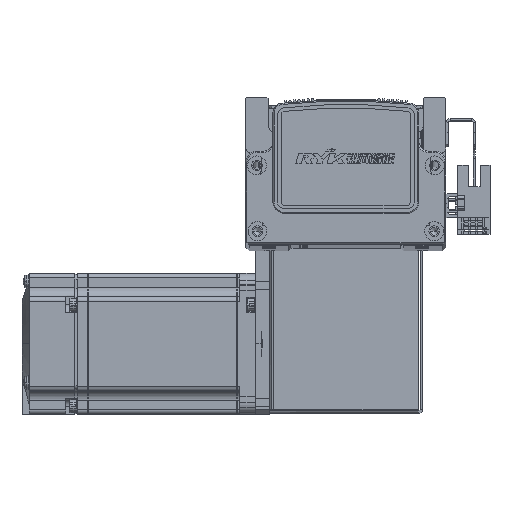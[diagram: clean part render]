
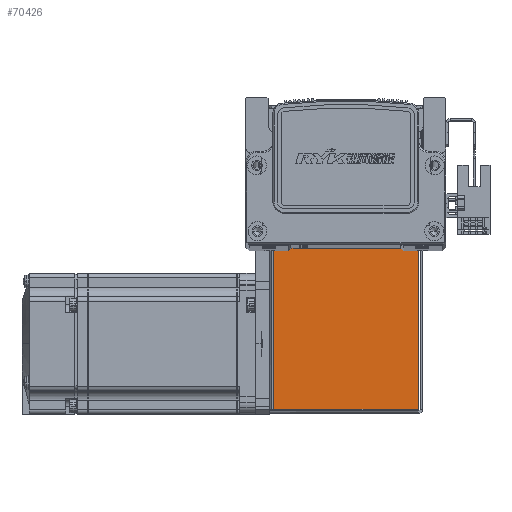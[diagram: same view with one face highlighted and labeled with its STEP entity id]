
A CAD part, top view. The second image highlights one B-rep face of the part: STEP entity #70426.
In plain terms, the highlighted planar face has unit normal (0, 0, 1) as drawn and (0, 0, -1) by its records, which use the part's own axes.
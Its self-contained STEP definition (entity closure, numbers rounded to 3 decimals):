
#959 = CARTESIAN_POINT ( 'NONE',  ( 30.763, 72.5, -35. ) ) ;
#1012 = CARTESIAN_POINT ( 'NONE',  ( -30.793, 0.737, -35. ) ) ;
#1068 = CARTESIAN_POINT ( 'NONE',  ( 30.763, 0.737, -35. ) ) ;
#1118 = CARTESIAN_POINT ( 'NONE',  ( -30.793, 72.5, -35. ) ) ;
#1880 = EDGE_CURVE ( 'NONE', #53325, #53332, #11419, .T. ) ;
#1913 = EDGE_CURVE ( 'NONE', #53336, #53332, #11375, .T. ) ;
#1916 = EDGE_CURVE ( 'NONE', #53404, #53336, #11434, .T. ) ;
#1923 = EDGE_CURVE ( 'NONE', #53325, #53404, #11587, .T. ) ;
#8476 = FACE_OUTER_BOUND ( 'NONE', #39347, .T. ) ;
#10139 = ORIENTED_EDGE ( 'NONE', *, *, #1913, .T. ) ;
#10190 = ORIENTED_EDGE ( 'NONE', *, *, #1923, .T. ) ;
#10198 = ORIENTED_EDGE ( 'NONE', *, *, #1880, .F. ) ;
#10202 = ORIENTED_EDGE ( 'NONE', *, *, #1916, .T. ) ;
#11375 = LINE ( 'NONE', #62095, #11377 ) ;
#11377 = VECTOR ( 'NONE', #62140, 1000. ) ;
#11419 = LINE ( 'NONE', #66316, #11441 ) ;
#11434 = LINE ( 'NONE', #62165, #11436 ) ;
#11436 = VECTOR ( 'NONE', #62037, 1000. ) ;
#11441 = VECTOR ( 'NONE', #66335, 1000. ) ;
#11482 = VECTOR ( 'NONE', #62230, 1000. ) ;
#11587 = LINE ( 'NONE', #62253, #11482 ) ;
#25079 = DIRECTION ( 'NONE',  ( 0., 0., 1. ) ) ;
#25122 = PLANE ( 'NONE',  #63938 ) ;
#25123 = DIRECTION ( 'NONE',  ( 0., -1., 0. ) ) ;
#25126 = CARTESIAN_POINT ( 'NONE',  ( 0., 0., -35. ) ) ;
#39347 = EDGE_LOOP ( 'NONE', ( #10139, #10198, #10190, #10202 ) ) ;
#53325 = VERTEX_POINT ( 'NONE', #1012 ) ;
#53332 = VERTEX_POINT ( 'NONE', #1068 ) ;
#53336 = VERTEX_POINT ( 'NONE', #959 ) ;
#53404 = VERTEX_POINT ( 'NONE', #1118 ) ;
#62037 = DIRECTION ( 'NONE',  ( 1., 0., 0. ) ) ;
#62095 = CARTESIAN_POINT ( 'NONE',  ( 30.763, 72.5, -35. ) ) ;
#62140 = DIRECTION ( 'NONE',  ( 0., -1., 0. ) ) ;
#62165 = CARTESIAN_POINT ( 'NONE',  ( 0., 72.5, -35. ) ) ;
#62230 = DIRECTION ( 'NONE',  ( 0., 1., 0. ) ) ;
#62253 = CARTESIAN_POINT ( 'NONE',  ( -30.793, 0., -35. ) ) ;
#63938 = AXIS2_PLACEMENT_3D ( 'NONE', #25126, #25079, #25123 ) ;
#66316 = CARTESIAN_POINT ( 'NONE',  ( 32.5, 0.737, -35. ) ) ;
#66335 = DIRECTION ( 'NONE',  ( 1., 0., 0. ) ) ;
#70426 = ADVANCED_FACE ( 'NONE', ( #8476 ), #25122, .F. ) ;
